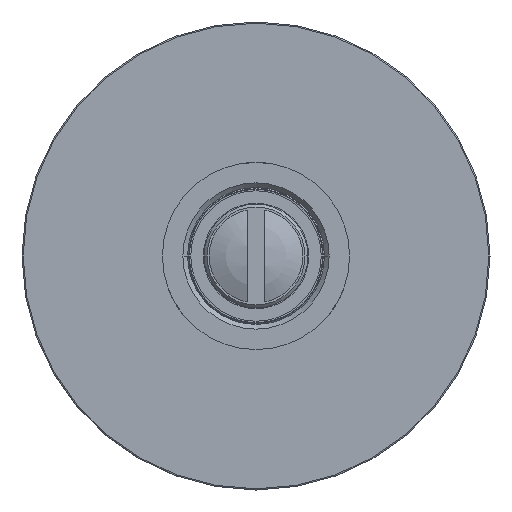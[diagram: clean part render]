
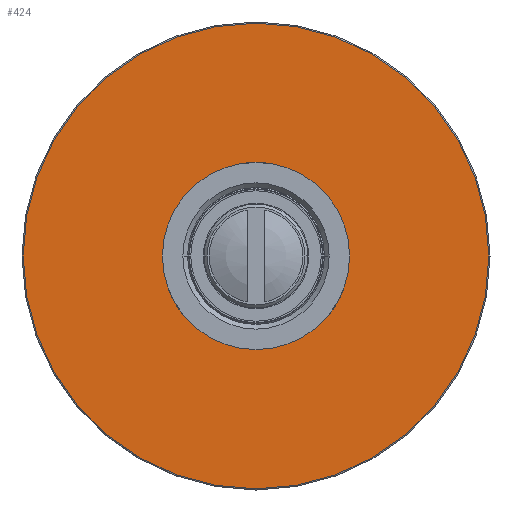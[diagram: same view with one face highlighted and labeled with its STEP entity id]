
A CAD part, front view. The second image highlights one B-rep face of the part: STEP entity #424.
In plain terms, the highlighted planar face has unit normal (0, -1, 0).
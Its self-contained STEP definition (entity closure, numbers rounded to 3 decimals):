
#9=CARTESIAN_POINT('',(0.,2698.,80.));
#10=DIRECTION('',(0.,-1.,0.));
#11=DIRECTION('',(1.,0.,0.));
#12=AXIS2_PLACEMENT_3D('',#9,#10,#11);
#14=CARTESIAN_POINT('',(0.,2698.,80.));
#15=DIRECTION('',(0.,-1.,0.));
#16=DIRECTION('',(-1.,0.,0.));
#17=AXIS2_PLACEMENT_3D('',#14,#15,#16);
#19=CARTESIAN_POINT('',(0.,2698.,80.));
#20=DIRECTION('',(0.,1.,0.));
#21=DIRECTION('',(-1.,0.,0.));
#22=AXIS2_PLACEMENT_3D('',#19,#20,#21);
#24=CARTESIAN_POINT('',(0.,2698.,80.));
#25=DIRECTION('',(0.,1.,0.));
#26=DIRECTION('',(1.,0.,0.));
#27=AXIS2_PLACEMENT_3D('',#24,#25,#26);
#319=CARTESIAN_POINT('',(39.8,2698.,80.));
#320=CARTESIAN_POINT('',(-39.8,2698.,80.));
#321=VERTEX_POINT('',#319);
#322=VERTEX_POINT('',#320);
#359=CARTESIAN_POINT('',(-12.5,2698.,80.));
#360=CARTESIAN_POINT('',(12.5,2698.,80.));
#361=VERTEX_POINT('',#359);
#362=VERTEX_POINT('',#360);
#409=CARTESIAN_POINT('',(0.,2698.,80.));
#410=DIRECTION('',(0.,-1.,0.));
#411=DIRECTION('',(1.,0.,0.));
#412=AXIS2_PLACEMENT_3D('',#409,#410,#411);
#413=PLANE('',#412);
#415=ORIENTED_EDGE('',*,*,#414,.F.);
#417=ORIENTED_EDGE('',*,*,#416,.F.);
#418=EDGE_LOOP('',(#415,#417));
#419=FACE_OUTER_BOUND('',#418,.F.);
#420=ORIENTED_EDGE('',*,*,#386,.F.);
#421=ORIENTED_EDGE('',*,*,#401,.F.);
#422=EDGE_LOOP('',(#420,#421));
#423=FACE_BOUND('',#422,.F.);
#424=ADVANCED_FACE('',(#419,#423),#413,.T.);
#13=CIRCLE('',#12,39.8);
#18=CIRCLE('',#17,39.8);
#23=CIRCLE('',#22,12.5);
#28=CIRCLE('',#27,12.5);
#386=EDGE_CURVE('',#361,#362,#23,.T.);
#401=EDGE_CURVE('',#362,#361,#28,.T.);
#414=EDGE_CURVE('',#321,#322,#13,.T.);
#416=EDGE_CURVE('',#322,#321,#18,.T.);
